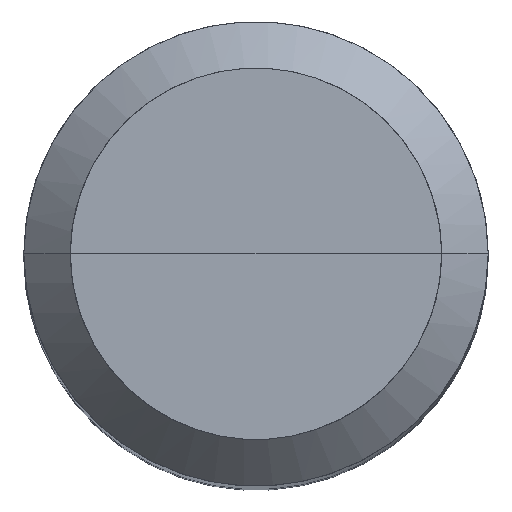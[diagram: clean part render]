
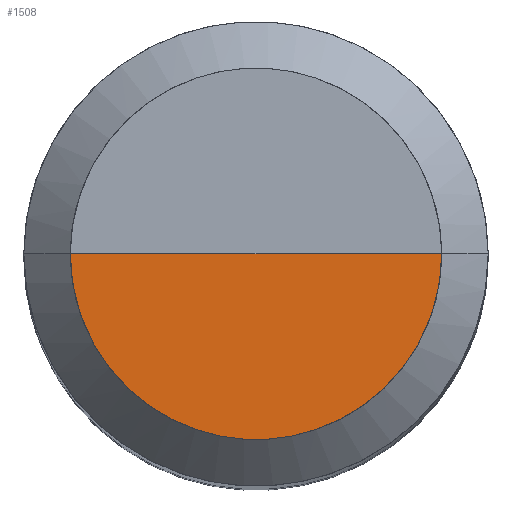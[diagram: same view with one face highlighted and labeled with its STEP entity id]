
A CAD part, top view. The second image highlights one B-rep face of the part: STEP entity #1508.
In plain terms, the highlighted free-form (B-spline) face has degree [1, 2] with [2, 5] control points.
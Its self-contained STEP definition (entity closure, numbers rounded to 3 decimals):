
#1237=CARTESIAN_POINT('',(4.8,0.0,46.0));
#1241=CARTESIAN_POINT('',(-4.8,0.0,46.0));
#1242=CARTESIAN_POINT('',(0.0,0.0,46.0));
#1246=CARTESIAN_POINT('',(-4.8,-4.8,46.0));
#1247=CARTESIAN_POINT('',(0.0,-4.8,46.0));
#1248=CARTESIAN_POINT('',(4.8,-4.8,46.0));
#1493=(
BOUNDED_SURFACE()
B_SPLINE_SURFACE(1,2,(
(#1241,#1246,#1247,#1248,#1237),
(#1242,#1242,#1242,#1242,#1242)
), .UNSPECIFIED.,.F.,.F.,.F.)
B_SPLINE_SURFACE_WITH_KNOTS((2,2),(3,2,3),(
0.0,1.0),(
0.0,0.5,1.0), .UNSPECIFIED.)
GEOMETRIC_REPRESENTATION_ITEM()
RATIONAL_B_SPLINE_SURFACE(((1.0,0.707,1.0,0.707,1.0),
(1.0,0.707,1.0,0.707,1.0)
))
REPRESENTATION_ITEM('')
SURFACE()
);
#1494=(
BOUNDED_CURVE()
B_SPLINE_CURVE(2,(#1237,#1248,#1247,#1246,#1241),.UNSPECIFIED.,.F.,.F.)
B_SPLINE_CURVE_WITH_KNOTS((3,2,3),
(0.0,0.5,1.0),.UNSPECIFIED.)
CURVE()
GEOMETRIC_REPRESENTATION_ITEM()
RATIONAL_B_SPLINE_CURVE((1.0,0.707,1.0,0.707,1.0))
REPRESENTATION_ITEM('')
);
#1495=(
BOUNDED_CURVE()
B_SPLINE_CURVE(1,(#1241,#1242),.UNSPECIFIED.,.F.,.F.)
B_SPLINE_CURVE_WITH_KNOTS((2,2),
(0.0,1.0),.UNSPECIFIED.)
CURVE()
GEOMETRIC_REPRESENTATION_ITEM()
RATIONAL_B_SPLINE_CURVE((1.0,1.0))
REPRESENTATION_ITEM('')
);
#1496=(
BOUNDED_CURVE()
B_SPLINE_CURVE(1,(#1242,#1237),.UNSPECIFIED.,.F.,.F.)
B_SPLINE_CURVE_WITH_KNOTS((2,2),
(0.0,1.0),.UNSPECIFIED.)
CURVE()
GEOMETRIC_REPRESENTATION_ITEM()
RATIONAL_B_SPLINE_CURVE((1.0,1.0))
REPRESENTATION_ITEM('')
);
#1497=VERTEX_POINT('',#1237);
#1498=VERTEX_POINT('',#1241);
#1499=VERTEX_POINT('',#1242);
#1500=EDGE_CURVE('',#1497,#1498,#1494,.T.);
#1501=EDGE_CURVE('',#1498,#1499,#1495,.T.);
#1502=EDGE_CURVE('',#1499,#1497,#1496,.T.);
#1503=ORIENTED_EDGE('',*,*,#1500,.T.);
#1504=ORIENTED_EDGE('',*,*,#1501,.T.);
#1505=ORIENTED_EDGE('',*,*,#1502,.T.);
#1506=EDGE_LOOP('',(#1503,#1504,#1505));
#1507=FACE_OUTER_BOUND('',#1506,.T.);
#1508=ADVANCED_FACE('',(#1507),#1493,.T.);
